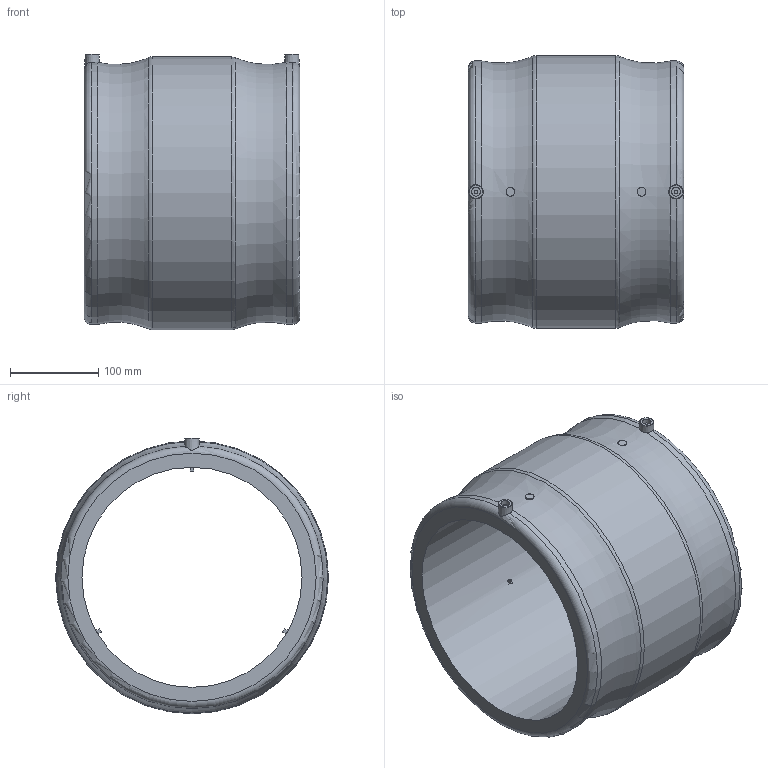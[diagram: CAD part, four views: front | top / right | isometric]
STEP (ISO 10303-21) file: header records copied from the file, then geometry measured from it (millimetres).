
FILE_DESCRIPTION(/* description */ ('Unknown'),/* implementation_level */ '2;1');
FILE_NAME(/* name */ 'MP250C',/* time_stamp */ '2021-02-11T08:45:20+01:00',/* author */ ('Unknown'),/* organization */ ('Unknown'),/* preprocessor_version */ 'ST-DEVELOPER v16.7',/* originating_system */ 'Solid Edge',/* authorisation */ 'Unknown');
FILE_SCHEMA (('AUTOMOTIVE_DESIGN {1 0 10303 214 3 1 1}'));
Length unit declared in the file: millimetre
Products named in the file (1): MP250C
Bounding box: 245 x 310 x 313 mm (x, y, z)
Volume: 5527382.1 mm3; surface area: 464858.1 mm2
Topology: 1 solids, 1 shells, 51 faces, 123 edges, 81 vertices
Faces by surface type: plane 25, cylinder 16, torus 8, cone 2
Full cylindrical faces by diameter (mm): 4 x2, 10 x4, 250 x1, 310 x1
Entity records: 1369 total; most frequent: CARTESIAN_POINT 285, DIRECTION 228, ORIENTED_EDGE 180, AXIS2_PLACEMENT_3D 96, EDGE_CURVE 90, EDGE_LOOP 80, FACE_BOUND 80, VERTEX_POINT 68
